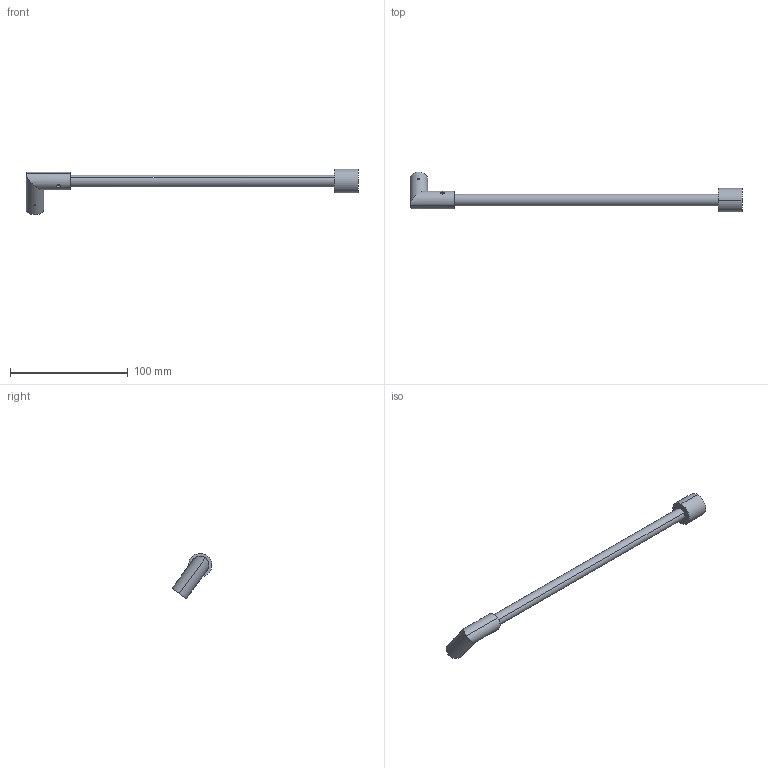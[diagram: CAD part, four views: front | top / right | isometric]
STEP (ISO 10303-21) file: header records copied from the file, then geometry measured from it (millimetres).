
FILE_DESCRIPTION (( 'STEP AP203' ), '1' );
FILE_NAME ('pendulumAssembly_Default_sldprt.STEP', '2020-04-06T12:54:16', ( '' ), ( '' ), 'SwSTEP 2.0', 'SolidWorks 2018', '' );
FILE_SCHEMA (( 'CONFIG_CONTROL_DESIGN' ));
Length unit declared in the file: millimetre
Products named in the file (1): pendulumAssembly_Default_sldprt
Bounding box: 282.5 x 33.79 x 38.63 mm (x, y, z)
Volume: 33162.5 mm3; surface area: 14463.5 mm2
Topology: 3 solids, 3 shells, 30 faces, 64 edges, 42 vertices
Faces by surface type: cylinder 22, plane 8
Entity records: 1309 total; most frequent: CARTESIAN_POINT 587, ORIENTED_EDGE 128, DIRECTION 124, EDGE_CURVE 64, AXIS2_PLACEMENT_3D 51, EDGE_LOOP 42, VERTEX_POINT 42, ADVANCED_FACE 30
